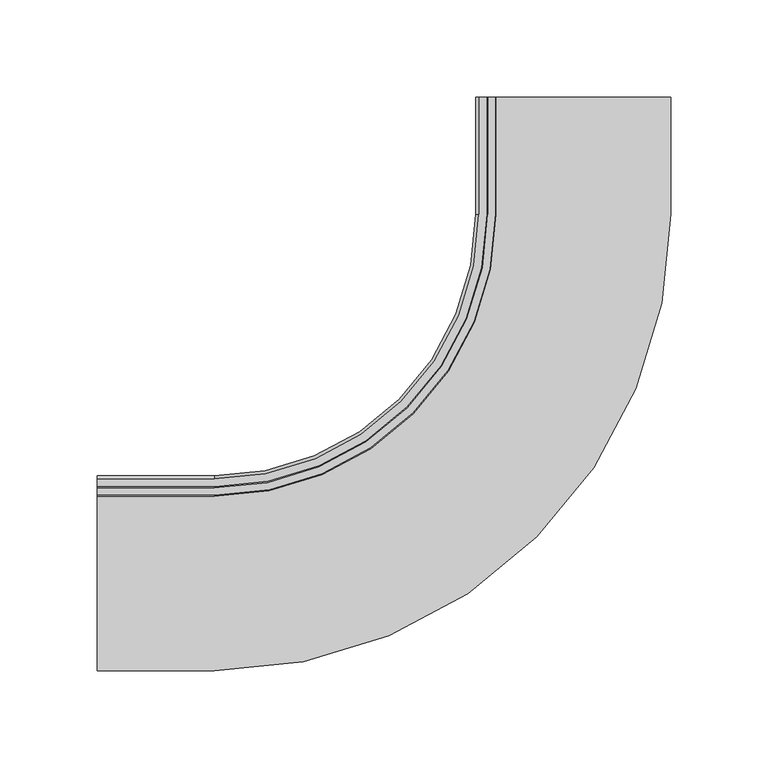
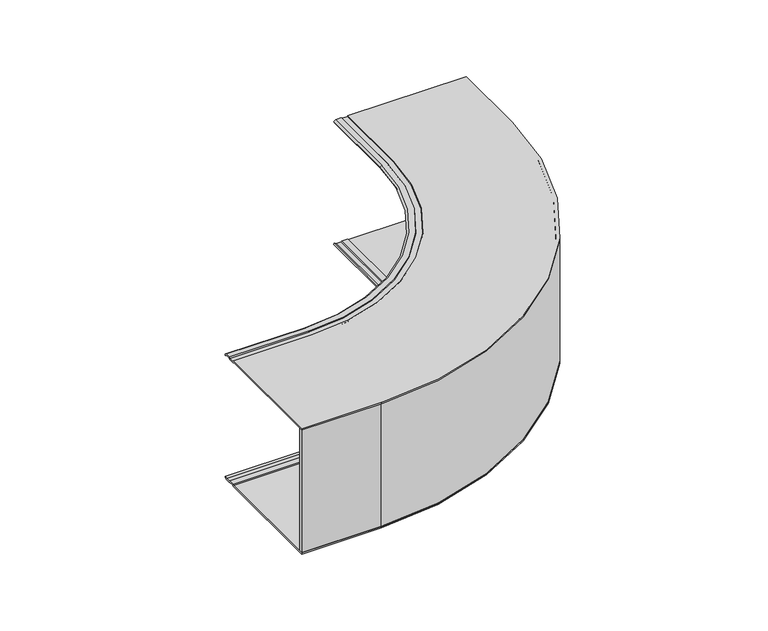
"""IFC4 building model written with IfcOpenShell, lengths in millimetres: cable carrier fitting geometry, CCERC_Vertical_Inside_Bend-Basortray : Basortray CCERC-GS."""

from ifc_helpers import new_model, si_unit, frame, origin, place, context, project, spatial, polyline, circle_curve, source, transform, mapped, element, save
from ifc_brep_helpers import plane_surface, cylinder_surface, revolved_surface, advanced_brep


def cable_carrier_fitting_58051795(model_context):
    return source(origin(), model_context, "Body", "AdvancedBrep", [
        advanced_brep(
        [(-39.3622802, 244.001675, 50.0), (49.998325, 244.001675, 50.0), (49.998325, 244.001675, 49.0), (-38.9480666, 244.001675, 49.0), (-39.559632, 244.001675, 48.3884346), (-44.1487676, 244.001675, 48.3884346), (-44.760333, 244.001675, 49.0), (-48.0804575, 244.001675, 49.0), (-49.501675, 244.001675, 48.1794597), (-50.001675, 244.001675, 49.0454851), (-48.3484067, 244.001675, 50.0), (-44.3461194, 244.001675, 50.0), (-43.734554, 244.001675, 49.3884346), (-39.9738456, 244.001675, 49.3884346), (-244.001675, 39.3606052, 50.0), (-244.001675, 39.9721706, 49.3884346), (-244.001675, 43.732879, 49.3884346), (-244.001675, 44.3444445, 50.0), (-244.001675, 48.3467318, 50.0), (-244.001675, 50.0, 49.0454851), (-244.001675, 49.5, 48.1794597), (-244.001675, 48.0787826, 49.0), (-244.001675, 44.758658, 49.0), (-244.001675, 44.1470926, 48.3884346), (-244.001675, 39.557957, 48.3884346), (-244.001675, 38.9463916, 49.0), (-244.001675, -50.0, 49.0), (-244.001675, -50.0, 50.0), (-184.001675, -50.0, 49.0), (-184.001675, -50.0, 50.0), (-184.001675, 39.557957, 48.3884346), (-184.001675, 38.9463916, 49.0), (-184.001675, 44.758658, 49.0), (-184.001675, 44.1470926, 48.3884346), (-184.001675, 49.5, 48.1794597), (-184.001675, 48.0787826, 49.0), (-184.001675, 43.732879, 49.3884346), (-184.001675, 44.3444445, 50.0), (-184.001675, 39.3606052, 50.0), (-184.001675, 39.9721706, 49.3884346), (-184.001675, 50.0, 49.0454851), (-184.001675, 48.3467318, 50.0), (-39.3622802, 184.0, 50.0), (49.998325, 184.0, 50.0), (49.998325, 184.0, 49.0), (-38.9480666, 184.0, 49.0), (-39.559632, 184.0, 48.3884346), (-44.1487676, 184.0, 48.3884346), (-44.760333, 184.0, 49.0), (-48.0804575, 184.0, 49.0), (-49.501675, 184.0, 48.1794597), (-50.001675, 184.0, 49.0454851), (-48.3484067, 184.0, 50.0), (-44.3461194, 184.0, 50.0), (-43.734554, 184.0, 49.3884346), (-39.9738456, 184.0, 49.3884346)],
        [
            (0, 1),
            (1, 2),
            (2, 3),
            (3, 4),
            (4, 5),
            (5, 6),
            (6, 7),
            (7, 8),
            (8, 9),
            (9, 10),
            (10, 11),
            (11, 12),
            (12, 13),
            (13, 0),
            (14, 15),
            (15, 16),
            (16, 17),
            (17, 18),
            (18, 19),
            (19, 20),
            (20, 21),
            (21, 22),
            (22, 23),
            (23, 24),
            (24, 25),
            (25, 26),
            (26, 27),
            (27, 14),
            (28, 29),
            (29, 27),
            (26, 28),
            (30, 31),
            (31, 25),
            (24, 30),
            (32, 33),
            (33, 23),
            (22, 32),
            (34, 35),
            (35, 21),
            (20, 34),
            (36, 37),
            (37, 17),
            (16, 36),
            (38, 39),
            (39, 15),
            (14, 38),
            (40, 34),
            (19, 40),
            (41, 40),
            (18, 41),
            (0, 42),
            (42, 38, circle_curve(frame((-184.001675, 184.0, 50.0), z_axis=(0.0, 0.0, -1.0), x_axis=(1.0, 0.0, 0.0)), 144.6393948)),
            (29, 43, circle_curve(frame((-184.001675, 184.0, 50.0), z_axis=(0.0, 0.0, 1.0), x_axis=(1.0, 0.0, 0.0)), 234.0)),
            (43, 1),
            (43, 44),
            (44, 2),
            (44, 28, circle_curve(frame((-184.001675, 184.0, 49.0), z_axis=(0.0, 0.0, -1.0), x_axis=(1.0, 0.0, 0.0)), 234.0)),
            (31, 45, circle_curve(frame((-184.001675, 184.0, 49.0), z_axis=(0.0, 0.0, 1.0), x_axis=(1.0, 0.0, 0.0)), 145.0536084)),
            (45, 3),
            (45, 46),
            (46, 4),
            (46, 30, circle_curve(frame((-184.001675, 184.0, 48.3884346), z_axis=(0.0, 0.0, -1.0), x_axis=(1.0, 0.0, 0.0)), 144.442043)),
            (33, 47, circle_curve(frame((-184.001675, 184.0, 48.3884346), z_axis=(0.0, 0.0, 1.0), x_axis=(1.0, 0.0, 0.0)), 139.8529074)),
            (47, 5),
            (47, 48),
            (48, 6),
            (48, 32, circle_curve(frame((-184.001675, 184.0, 49.0), z_axis=(0.0, 0.0, -1.0), x_axis=(1.0, 0.0, 0.0)), 139.241342)),
            (35, 49, circle_curve(frame((-184.001675, 184.0, 49.0), z_axis=(0.0, 0.0, 1.0), x_axis=(1.0, 0.0, 0.0)), 135.9212174)),
            (49, 7),
            (49, 50),
            (50, 8),
            (50, 51),
            (51, 9),
            (51, 52),
            (52, 10),
            (52, 41, circle_curve(frame((-184.001675, 184.0, 50.0), z_axis=(0.0, 0.0, -1.0), x_axis=(1.0, 0.0, 0.0)), 135.6532682)),
            (37, 53, circle_curve(frame((-184.001675, 184.0, 50.0), z_axis=(0.0, 0.0, 1.0), x_axis=(1.0, 0.0, 0.0)), 139.6555555)),
            (53, 11),
            (53, 54),
            (54, 12),
            (54, 36, circle_curve(frame((-184.001675, 184.0, 49.3884346), z_axis=(0.0, 0.0, -1.0), x_axis=(1.0, 0.0, 0.0)), 140.267121)),
            (39, 55, circle_curve(frame((-184.001675, 184.0, 49.3884346), z_axis=(0.0, 0.0, 1.0), x_axis=(1.0, 0.0, 0.0)), 144.0278294)),
            (55, 13),
            (55, 42),
            (34, 50, circle_curve(frame((-184.001675, 184.0, 48.1794597), z_axis=(0.0, 0.0, 1.0), x_axis=(1.0, 0.0, 0.0)), 134.5)),
            (40, 51, circle_curve(frame((-184.001675, 184.0, 49.0454851), z_axis=(0.0, 0.0, 1.0), x_axis=(1.0, 0.0, 0.0)), 134.0)),
        ],
        [
            plane_surface(frame((-0.001675, 244.001675, 0.0), z_axis=(0.0, 1.0, 0.0), x_axis=(0.0, 0.0, 1.0))),
            plane_surface(frame((-244.001675, 0.0, 0.0), z_axis=(-1.0, 0.0, 0.0), x_axis=(0.0, 0.0, 1.0))),
            plane_surface(frame((-184.001675, -50.0, 50.0), z_axis=(0.0, -1.0, 0.0), x_axis=(-1.0, 0.0, 0.0))),
            plane_surface(frame((-184.001675, 38.9463916, 49.0), z_axis=(0.0, -0.707106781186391, -0.7071067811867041), x_axis=(-1.0, 0.0, 0.0))),
            plane_surface(frame((-184.001675, 44.1470926, 48.3884346), z_axis=(0.0, 0.7071067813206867, -0.7071067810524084), x_axis=(-1.0, 0.0, 0.0))),
            plane_surface(frame((-184.001675, 48.0787826, 49.0), z_axis=(0.0, -0.5000000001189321, -0.8660254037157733), x_axis=(-1.0, 0.0, 0.0))),
            plane_surface(frame((-184.001675, 44.3444445, 50.0), z_axis=(0.0, -0.7071067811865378, 0.7071067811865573), x_axis=(-1.0, 0.0, 0.0))),
            plane_surface(frame((-184.001675, 39.9721706, 49.3884346), z_axis=(0.0, 0.7071067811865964, 0.7071067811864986), x_axis=(-1.0, 0.0, 0.0))),
            plane_surface(frame((-184.001675, 49.5, 48.1794597), z_axis=(0.0, 0.8660254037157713, -0.5000000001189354), x_axis=(-1.0, 0.0, 0.0))),
            plane_surface(frame((-184.001675, 50.0, 49.0454851), z_axis=(0.0, 0.5000000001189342, 0.8660254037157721), x_axis=(-1.0, 0.0, 0.0))),
            plane_surface(frame((-39.3622802, 244.001675, 50.0), z_axis=(0.0, 0.0, 1.0), x_axis=(0.0, -1.0, 0.0))),
            plane_surface(frame((49.998325, 244.001675, 50.0), z_axis=(1.0, 0.0, 0.0), x_axis=(0.0, -1.0, 0.0))),
            plane_surface(frame((49.998325, 244.001675, 49.0), z_axis=(0.0, 0.0, -1.0), x_axis=(0.0, -1.0, 0.0))),
            plane_surface(frame((-38.9480666, 244.001675, 49.0), z_axis=(0.707106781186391, 0.0, -0.7071067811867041), x_axis=(0.0, -1.0, 0.0))),
            plane_surface(frame((-39.559632, 244.001675, 48.3884346), z_axis=(0.0, 0.0, -1.0), x_axis=(0.0, -1.0, 0.0))),
            plane_surface(frame((-44.1487676, 244.001675, 48.3884346), z_axis=(-0.7071067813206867, 0.0, -0.7071067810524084), x_axis=(0.0, -1.0, 0.0))),
            plane_surface(frame((-44.760333, 244.001675, 49.0), z_axis=(0.0, 0.0, -1.0), x_axis=(0.0, -1.0, 0.0))),
            plane_surface(frame((-48.0804575, 244.001675, 49.0), z_axis=(0.5000000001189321, 0.0, -0.8660254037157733), x_axis=(0.0, -1.0, 0.0))),
            plane_surface(frame((-49.501675, 244.001675, 48.1794597), z_axis=(-0.8660254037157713, 0.0, -0.5000000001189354), x_axis=(0.0, -1.0, 0.0))),
            plane_surface(frame((-50.001675, 244.001675, 49.0454851), z_axis=(-0.5000000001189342, 0.0, 0.8660254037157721), x_axis=(0.0, -1.0, 0.0))),
            plane_surface(frame((-48.3484067, 244.001675, 50.0), z_axis=(0.0, 0.0, 1.0), x_axis=(0.0, -1.0, 0.0))),
            plane_surface(frame((-44.3461194, 244.001675, 50.0), z_axis=(0.7071067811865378, 0.0, 0.7071067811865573), x_axis=(0.0, -1.0, 0.0))),
            plane_surface(frame((-43.734554, 244.001675, 49.3884346), z_axis=(0.0, 0.0, 1.0), x_axis=(0.0, -1.0, 0.0))),
            plane_surface(frame((-39.9738456, 244.001675, 49.3884346), z_axis=(-0.7071067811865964, 0.0, 0.7071067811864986), x_axis=(0.0, -1.0, 0.0))),
            cylinder_surface(frame((-184.001675, 184.0, 0.0), z_axis=(0.0, 0.0, -1.0), x_axis=(1.0, 0.0, 0.0)), 234.0),
            revolved_surface(polyline([(-38.9480666, 184.0, 49.0), (-39.559632, 184.0, 48.3884346)]), (-184.001675, 184.0, 0.0), (0.0, 0.0, -1.0)),
            revolved_surface(polyline([(-44.1487676, 184.0, 48.3884346), (-44.760333, 184.0, 49.0)]), (-184.001675, 184.0, 0.0), (0.0, 0.0, -1.0)),
            revolved_surface(polyline([(-48.0804575, 184.0, 49.0), (-49.501675, 184.0, 48.1794597)]), (-184.001675, 184.0, 0.0), (0.0, 0.0, -1.0)),
            revolved_surface(polyline([(-49.501675, 184.0, 48.1794597), (-50.001675, 184.0, 49.0454851)]), (-184.001675, 184.0, 0.0), (0.0, 0.0, -1.0)),
            revolved_surface(polyline([(-50.001675, 184.0, 49.0454851), (-48.3484067, 184.0, 50.0)]), (-184.001675, 184.0, 0.0), (0.0, 0.0, -1.0)),
            revolved_surface(polyline([(-44.3461194, 184.0, 50.0), (-43.734554, 184.0, 49.3884346)]), (-184.001675, 184.0, 0.0), (0.0, 0.0, -1.0)),
            revolved_surface(polyline([(-39.9738456, 184.0, 49.3884346), (-39.3622802, 184.0, 50.0)]), (-184.001675, 184.0, 0.0), (0.0, 0.0, -1.0)),
        ],
        [
            (0, [[1, 2, 3, 4, 5, 6, 7, 8, 9, 10, 11, 12, 13, 14]]),
            (1, [[15, 16, 17, 18, 19, 20, 21, 22, 23, 24, 25, 26, 27, 28]]),
            (2, [[29, 30, -27, 31]]),
            (3, [[32, 33, -25, 34]]),
            (4, [[35, 36, -23, 37]]),
            (5, [[38, 39, -21, 40]]),
            (6, [[41, 42, -17, 43]]),
            (7, [[44, 45, -15, 46]]),
            (8, [[47, -40, -20, 48]]),
            (9, [[49, -48, -19, 50]]),
            (10, [[-1, 51, 52, -46, -28, -30, 53, 54]]),
            (11, [[-2, -54, 55, 56]]),
            (12, [[-3, -56, 57, -31, -26, -33, 58, 59]]),
            (13, [[-4, -59, 60, 61]]),
            (14, [[-5, -61, 62, -34, -24, -36, 63, 64]]),
            (15, [[-6, -64, 65, 66]]),
            (16, [[-7, -66, 67, -37, -22, -39, 68, 69]]),
            (17, [[-8, -69, 70, 71]]),
            (18, [[-9, -71, 72, 73]]),
            (19, [[-10, -73, 74, 75]]),
            (20, [[-11, -75, 76, -50, -18, -42, 77, 78]]),
            (21, [[-12, -78, 79, 80]]),
            (22, [[-13, -80, 81, -43, -16, -45, 82, 83]]),
            (23, [[-14, -83, 84, -51]]),
            (24, [[-57, -55, -53, -29]]),
            (25, [[-62, -60, -58, -32]]),
            (26, [[-67, -65, -63, -35]]),
            (27, [[85, -70, -68, -38]]),
            (28, [[86, -72, -85, -47]]),
            (29, [[-76, -74, -86, -49]]),
            (30, [[-81, -79, -77, -41]]),
            (31, [[-52, -84, -82, -44]]),
        ],
    ),
        advanced_brep(
        [(-39.3622802, 244.001675, -50.0), (-39.9738456, 244.001675, -49.3884346), (-43.734554, 244.001675, -49.3884346), (-44.3461194, 244.001675, -50.0), (-48.3484067, 244.001675, -50.0), (-50.001675, 244.001675, -49.0454851), (-49.501675, 244.001675, -48.1794597), (-48.0804575, 244.001675, -49.0), (-44.760333, 244.001675, -49.0), (-44.1487676, 244.001675, -48.3884346), (-39.559632, 244.001675, -48.3884346), (-38.9480666, 244.001675, -49.0), (49.998325, 244.001675, -49.0), (49.998325, 244.001675, -50.0), (-244.001675, 39.3606052, -50.0), (-244.001675, -50.0, -50.0), (-244.001675, -50.0, -49.0), (-244.001675, 38.9463916, -49.0), (-244.001675, 39.557957, -48.3884346), (-244.001675, 44.1470926, -48.3884346), (-244.001675, 44.758658, -49.0), (-244.001675, 48.0787826, -49.0), (-244.001675, 49.5, -48.1794597), (-244.001675, 50.0, -49.0454851), (-244.001675, 48.3467318, -50.0), (-244.001675, 44.3444445, -50.0), (-244.001675, 43.732879, -49.3884346), (-244.001675, 39.9721706, -49.3884346), (-184.001675, 39.9721706, -49.3884346), (-184.001675, 39.3606052, -50.0), (-184.001675, 44.3444445, -50.0), (-184.001675, 43.732879, -49.3884346), (-184.001675, 50.0, -49.0454851), (-184.001675, 48.3467318, -50.0), (-184.001675, 49.5, -48.1794597), (-184.001675, 48.0787826, -49.0), (-184.001675, 44.1470926, -48.3884346), (-184.001675, 44.758658, -49.0), (-184.001675, 38.9463916, -49.0), (-184.001675, 39.557957, -48.3884346), (-184.001675, -50.0, -50.0), (-184.001675, -50.0, -49.0), (-39.3622802, 184.0, -50.0), (-39.9738456, 184.0, -49.3884346), (-43.734554, 184.0, -49.3884346), (-44.3461194, 184.0, -50.0), (-48.3484067, 184.0, -50.0), (-50.001675, 184.0, -49.0454851), (-49.501675, 184.0, -48.1794597), (-48.0804575, 184.0, -49.0), (-44.760333, 184.0, -49.0), (-44.1487676, 184.0, -48.3884346), (-39.559632, 184.0, -48.3884346), (-38.9480666, 184.0, -49.0), (49.998325, 184.0, -49.0), (49.998325, 184.0, -50.0)],
        [
            (0, 1),
            (1, 2),
            (2, 3),
            (3, 4),
            (4, 5),
            (5, 6),
            (6, 7),
            (7, 8),
            (8, 9),
            (9, 10),
            (10, 11),
            (11, 12),
            (12, 13),
            (13, 0),
            (14, 15),
            (15, 16),
            (16, 17),
            (17, 18),
            (18, 19),
            (19, 20),
            (20, 21),
            (21, 22),
            (22, 23),
            (23, 24),
            (24, 25),
            (25, 26),
            (26, 27),
            (27, 14),
            (28, 29),
            (29, 14),
            (27, 28),
            (30, 31),
            (31, 26),
            (25, 30),
            (32, 33),
            (33, 24),
            (23, 32),
            (34, 32),
            (22, 34),
            (35, 34),
            (21, 35),
            (36, 37),
            (37, 20),
            (19, 36),
            (38, 39),
            (39, 18),
            (17, 38),
            (40, 41),
            (41, 16),
            (15, 40),
            (0, 42),
            (42, 43),
            (43, 1),
            (43, 28, circle_curve(frame((-184.001675, 184.0, -49.3884346), z_axis=(0.0, 0.0, -1.0), x_axis=(1.0, 0.0, 0.0)), 144.0278294)),
            (31, 44, circle_curve(frame((-184.001675, 184.0, -49.3884346), z_axis=(0.0, 0.0, 1.0), x_axis=(1.0, 0.0, 0.0)), 140.267121)),
            (44, 2),
            (44, 45),
            (45, 3),
            (45, 30, circle_curve(frame((-184.001675, 184.0, -50.0), z_axis=(0.0, 0.0, -1.0), x_axis=(1.0, 0.0, 0.0)), 139.6555555)),
            (33, 46, circle_curve(frame((-184.001675, 184.0, -50.0), z_axis=(0.0, 0.0, 1.0), x_axis=(1.0, 0.0, 0.0)), 135.6532682)),
            (46, 4),
            (46, 47),
            (47, 5),
            (47, 48),
            (48, 6),
            (48, 49),
            (49, 7),
            (49, 35, circle_curve(frame((-184.001675, 184.0, -49.0), z_axis=(0.0, 0.0, -1.0), x_axis=(1.0, 0.0, 0.0)), 135.9212174)),
            (37, 50, circle_curve(frame((-184.001675, 184.0, -49.0), z_axis=(0.0, 0.0, 1.0), x_axis=(1.0, 0.0, 0.0)), 139.241342)),
            (50, 8),
            (50, 51),
            (51, 9),
            (51, 36, circle_curve(frame((-184.001675, 184.0, -48.3884346), z_axis=(0.0, 0.0, -1.0), x_axis=(1.0, 0.0, 0.0)), 139.8529074)),
            (39, 52, circle_curve(frame((-184.001675, 184.0, -48.3884346), z_axis=(0.0, 0.0, 1.0), x_axis=(1.0, 0.0, 0.0)), 144.442043)),
            (52, 10),
            (52, 53),
            (53, 11),
            (53, 38, circle_curve(frame((-184.001675, 184.0, -49.0), z_axis=(0.0, 0.0, -1.0), x_axis=(1.0, 0.0, 0.0)), 145.0536084)),
            (41, 54, circle_curve(frame((-184.001675, 184.0, -49.0), z_axis=(0.0, 0.0, 1.0), x_axis=(1.0, 0.0, 0.0)), 234.0)),
            (54, 12),
            (54, 55),
            (55, 13),
            (55, 40, circle_curve(frame((-184.001675, 184.0, -50.0), z_axis=(0.0, 0.0, -1.0), x_axis=(1.0, 0.0, 0.0)), 234.0)),
            (29, 42, circle_curve(frame((-184.001675, 184.0, -50.0), z_axis=(0.0, 0.0, 1.0), x_axis=(1.0, 0.0, 0.0)), 144.6393948)),
            (32, 47, circle_curve(frame((-184.001675, 184.0, -49.0454851), z_axis=(0.0, 0.0, 1.0), x_axis=(1.0, 0.0, 0.0)), 134.0)),
            (34, 48, circle_curve(frame((-184.001675, 184.0, -48.1794597), z_axis=(0.0, 0.0, 1.0), x_axis=(1.0, 0.0, 0.0)), 134.5)),
        ],
        [
            plane_surface(frame((-0.001675, 244.001675, 0.0), z_axis=(0.0, 1.0, 0.0), x_axis=(0.0, 0.0, 1.0))),
            plane_surface(frame((-244.001675, 0.0, 0.0), z_axis=(-1.0, 0.0, 0.0), x_axis=(0.0, 0.0, 1.0))),
            plane_surface(frame((-184.001675, 39.3606052, -50.0), z_axis=(0.0, 0.7071067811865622, -0.7071067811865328), x_axis=(-1.0, 0.0, 0.0))),
            plane_surface(frame((-184.001675, 43.732879, -49.3884346), z_axis=(0.0, -0.7071067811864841, -0.7071067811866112), x_axis=(-1.0, 0.0, 0.0))),
            plane_surface(frame((-184.001675, 48.3467318, -50.0), z_axis=(0.0, 0.499999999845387, -0.8660254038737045), x_axis=(-1.0, 0.0, 0.0))),
            plane_surface(frame((-184.001675, 50.0, -49.0454851), z_axis=(0.0, 0.866025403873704, 0.49999999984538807), x_axis=(-1.0, 0.0, 0.0))),
            plane_surface(frame((-184.001675, 49.5, -48.1794597), z_axis=(0.0, -0.49999999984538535, 0.8660254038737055), x_axis=(-1.0, 0.0, 0.0))),
            plane_surface(frame((-184.001675, 44.758658, -49.0), z_axis=(0.0, 0.7071067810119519, 0.7071067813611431), x_axis=(-1.0, 0.0, 0.0))),
            plane_surface(frame((-184.001675, 39.557957, -48.3884346), z_axis=(0.0, -0.7071067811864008, 0.7071067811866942), x_axis=(-1.0, 0.0, 0.0))),
            plane_surface(frame((-184.001675, -50.0, -49.0), z_axis=(0.0, -1.0, 0.0), x_axis=(-1.0, 0.0, 0.0))),
            plane_surface(frame((-39.3622802, 244.001675, -50.0), z_axis=(-0.7071067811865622, 0.0, -0.7071067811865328), x_axis=(0.0, -1.0, 0.0))),
            plane_surface(frame((-39.9738456, 244.001675, -49.3884346), z_axis=(0.0, 0.0, -1.0), x_axis=(0.0, -1.0, 0.0))),
            plane_surface(frame((-43.734554, 244.001675, -49.3884346), z_axis=(0.7071067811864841, 0.0, -0.7071067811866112), x_axis=(0.0, -1.0, 0.0))),
            plane_surface(frame((-44.3461194, 244.001675, -50.0), z_axis=(0.0, 0.0, -1.0), x_axis=(0.0, -1.0, 0.0))),
            plane_surface(frame((-48.3484067, 244.001675, -50.0), z_axis=(-0.499999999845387, 0.0, -0.8660254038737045), x_axis=(0.0, -1.0, 0.0))),
            plane_surface(frame((-50.001675, 244.001675, -49.0454851), z_axis=(-0.866025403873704, 0.0, 0.49999999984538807), x_axis=(0.0, -1.0, 0.0))),
            plane_surface(frame((-49.501675, 244.001675, -48.1794597), z_axis=(0.49999999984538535, 0.0, 0.8660254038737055), x_axis=(0.0, -1.0, 0.0))),
            plane_surface(frame((-48.0804575, 244.001675, -49.0), z_axis=(0.0, 0.0, 1.0), x_axis=(0.0, -1.0, 0.0))),
            plane_surface(frame((-44.760333, 244.001675, -49.0), z_axis=(-0.7071067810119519, 0.0, 0.7071067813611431), x_axis=(0.0, -1.0, 0.0))),
            plane_surface(frame((-44.1487676, 244.001675, -48.3884346), z_axis=(0.0, 0.0, 1.0), x_axis=(0.0, -1.0, 0.0))),
            plane_surface(frame((-39.559632, 244.001675, -48.3884346), z_axis=(0.7071067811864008, 0.0, 0.7071067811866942), x_axis=(0.0, -1.0, 0.0))),
            plane_surface(frame((-38.9480666, 244.001675, -49.0), z_axis=(0.0, 0.0, 1.0), x_axis=(0.0, -1.0, 0.0))),
            plane_surface(frame((49.998325, 244.001675, -49.0), z_axis=(1.0, 0.0, 0.0), x_axis=(0.0, -1.0, 0.0))),
            plane_surface(frame((49.998325, 244.001675, -50.0), z_axis=(0.0, 0.0, -1.0), x_axis=(0.0, -1.0, 0.0))),
            revolved_surface(polyline([(-39.3622802, 184.0, -50.0), (-39.9738456, 184.0, -49.3884346)]), (-184.001675, 184.0, 0.0), (0.0, 0.0, -1.0)),
            revolved_surface(polyline([(-43.734554, 184.0, -49.3884346), (-44.3461194, 184.0, -50.0)]), (-184.001675, 184.0, 0.0), (0.0, 0.0, -1.0)),
            revolved_surface(polyline([(-48.3484067, 184.0, -50.0), (-50.001675, 184.0, -49.0454851)]), (-184.001675, 184.0, 0.0), (0.0, 0.0, -1.0)),
            revolved_surface(polyline([(-50.001675, 184.0, -49.0454851), (-49.501675, 184.0, -48.1794597)]), (-184.001675, 184.0, 0.0), (0.0, 0.0, -1.0)),
            revolved_surface(polyline([(-49.501675, 184.0, -48.1794597), (-48.0804575, 184.0, -49.0)]), (-184.001675, 184.0, 0.0), (0.0, 0.0, -1.0)),
            revolved_surface(polyline([(-44.760333, 184.0, -49.0), (-44.1487676, 184.0, -48.3884346)]), (-184.001675, 184.0, 0.0), (0.0, 0.0, -1.0)),
            revolved_surface(polyline([(-39.559632, 184.0, -48.3884346), (-38.9480666, 184.0, -49.0)]), (-184.001675, 184.0, 0.0), (0.0, 0.0, -1.0)),
            cylinder_surface(frame((-184.001675, 184.0, 0.0), z_axis=(0.0, 0.0, -1.0), x_axis=(1.0, 0.0, 0.0)), 234.0),
        ],
        [
            (0, [[1, 2, 3, 4, 5, 6, 7, 8, 9, 10, 11, 12, 13, 14]]),
            (1, [[15, 16, 17, 18, 19, 20, 21, 22, 23, 24, 25, 26, 27, 28]]),
            (2, [[29, 30, -28, 31]]),
            (3, [[32, 33, -26, 34]]),
            (4, [[35, 36, -24, 37]]),
            (5, [[38, -37, -23, 39]]),
            (6, [[40, -39, -22, 41]]),
            (7, [[42, 43, -20, 44]]),
            (8, [[45, 46, -18, 47]]),
            (9, [[48, 49, -16, 50]]),
            (10, [[-1, 51, 52, 53]]),
            (11, [[-2, -53, 54, -31, -27, -33, 55, 56]]),
            (12, [[-3, -56, 57, 58]]),
            (13, [[-4, -58, 59, -34, -25, -36, 60, 61]]),
            (14, [[-5, -61, 62, 63]]),
            (15, [[-6, -63, 64, 65]]),
            (16, [[-7, -65, 66, 67]]),
            (17, [[-8, -67, 68, -41, -21, -43, 69, 70]]),
            (18, [[-9, -70, 71, 72]]),
            (19, [[-10, -72, 73, -44, -19, -46, 74, 75]]),
            (20, [[-11, -75, 76, 77]]),
            (21, [[-12, -77, 78, -47, -17, -49, 79, 80]]),
            (22, [[-13, -80, 81, 82]]),
            (23, [[-14, -82, 83, -50, -15, -30, 84, -51]]),
            (24, [[-54, -52, -84, -29]]),
            (25, [[-59, -57, -55, -32]]),
            (26, [[85, -62, -60, -35]]),
            (27, [[86, -64, -85, -38]]),
            (28, [[-68, -66, -86, -40]]),
            (29, [[-73, -71, -69, -42]]),
            (30, [[-78, -76, -74, -45]]),
            (31, [[-83, -81, -79, -48]]),
        ],
    ),
        advanced_brep(
        [(47.4577789, 244.002107, -50.0), (47.4577789, 244.002107, 50.0), (49.9977788, 244.0021301, 50.0), (49.9977788, 244.0021301, -50.0), (-244.001675, -47.46, -50.0), (-244.001675, -50.0, -50.0), (-244.001675, -50.0, 50.0), (-244.001675, -47.46, 50.0), (47.4583251, 183.9999769, -50.0), (47.4583251, 184.0, 50.0), (-184.001675, -47.46, 50.0), (-184.001675, -50.0, 50.0), (49.998325, 184.0, 50.0), (49.998325, 184.0, -50.0), (-184.001675, -50.0, -50.0), (-184.001675, -47.46, -50.0)],
        [
            (0, 1),
            (1, 2),
            (2, 3),
            (3, 0),
            (4, 5),
            (5, 6),
            (6, 7),
            (7, 4),
            (0, 8),
            (8, 9),
            (9, 1),
            (9, 10, circle_curve(frame((-184.001675, 184.0, 50.0), z_axis=(0.0, 0.0, -1.0), x_axis=(1.0, 0.0, 0.0)), 231.46)),
            (10, 7),
            (6, 11),
            (11, 12, circle_curve(frame((-184.001675, 184.0, 50.0), z_axis=(0.0, 0.0, 1.0), x_axis=(1.0, 0.0, 0.0)), 234.0)),
            (12, 2),
            (12, 13),
            (13, 3),
            (13, 14, circle_curve(frame((-184.001675, 184.0, -50.0), z_axis=(0.0, 0.0, -1.0), x_axis=(1.0, 0.0, 0.0)), 234.0)),
            (14, 5),
            (4, 15),
            (15, 8, circle_curve(frame((-184.001675, 184.0, -50.0), z_axis=(0.0, 0.0, 1.0), x_axis=(1.0, 0.0, 0.0)), 231.46)),
            (15, 10),
            (11, 14),
        ],
        [
            plane_surface(frame((49.9977788, 244.0021301, 0.0), z_axis=(-9.102887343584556e-06, 0.9999999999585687, 0.0), x_axis=(0.0, 0.0, 1.0))),
            plane_surface(frame((-244.001675, -50.0, 0.0), z_axis=(-1.0, 0.0, 0.0), x_axis=(0.0, 0.0, 1.0))),
            plane_surface(frame((47.4577789, 244.002107, -50.0), z_axis=(-0.9999999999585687, -9.102887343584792e-06, 0.0), x_axis=(9.102887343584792e-06, -0.9999999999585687, 0.0))),
            plane_surface(frame((47.4577789, 244.002107, 50.0), z_axis=(0.0, 0.0, 1.0), x_axis=(9.102887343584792e-06, -0.9999999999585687, 0.0))),
            plane_surface(frame((49.9977788, 244.0021301, 50.0), z_axis=(0.9999999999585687, 9.102887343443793e-06, 0.0), x_axis=(9.102887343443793e-06, -0.9999999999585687, 0.0))),
            plane_surface(frame((49.9977788, 244.0021301, -50.0), z_axis=(0.0, 0.0, -1.0), x_axis=(9.102887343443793e-06, -0.9999999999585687, 0.0))),
            revolved_surface(polyline([(47.458325, 184.0, -50.0), (47.458325, 184.0, 50.0)]), (-184.001675, 184.0, 0.0), (0.0, 0.0, -1.0)),
            cylinder_surface(frame((-184.001675, 184.0, 0.0), z_axis=(0.0, 0.0, -1.0), x_axis=(1.0, 0.0, 0.0)), 234.0),
            plane_surface(frame((-184.001675, -47.46, -50.0), z_axis=(0.0, 1.0, 0.0), x_axis=(-1.0, 0.0, 0.0))),
            plane_surface(frame((-184.001675, -50.0, 50.0), z_axis=(0.0, -1.0, 0.0), x_axis=(-1.0, 0.0, 0.0))),
        ],
        [
            (0, [[1, 2, 3, 4]]),
            (1, [[5, 6, 7, 8]]),
            (2, [[-1, 9, 10, 11]]),
            (3, [[-2, -11, 12, 13, -7, 14, 15, 16]]),
            (4, [[-3, -16, 17, 18]]),
            (5, [[-4, -18, 19, 20, -5, 21, 22, -9]]),
            (6, [[-12, -10, -22, 23]]),
            (7, [[-19, -17, -15, 24]]),
            (8, [[-23, -21, -8, -13]]),
            (9, [[-24, -14, -6, -20]]),
        ],
    ),
    ])


if __name__ == "__main__":
    model = new_model("IFC4")
    model_context = context("Model", 3, world=origin())
    ifc_project = project(units=[si_unit("LENGTHUNIT", "METRE", prefix="MILLI")], contexts=[model_context])
    site = spatial("IfcSite", under=ifc_project)
    building = spatial("IfcBuilding", under=site)
    placement = place(None, origin())
    cable_carrier_fitting_shape = cable_carrier_fitting_58051795(model_context)
    element("IfcCableCarrierFitting", 1, ObjectType="CCERC_Vertical_Inside_Bend-Basortray : Basortray CCERC-GS", at=placement, inside=building, context=model_context, shape_type="MappedRepresentation", body=[
        mapped(cable_carrier_fitting_shape, transform((0.0, 0.0, 0.0), x_axis=(1.0, 0.0, 0.0), y_axis=(0.0, 1.0, 0.0), z_axis=(0.0, 0.0, 1.0))),
    ])
    save(model, "model.ifc")
